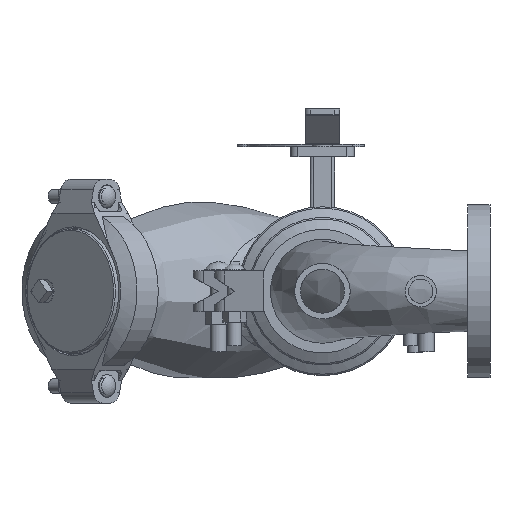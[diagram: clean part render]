
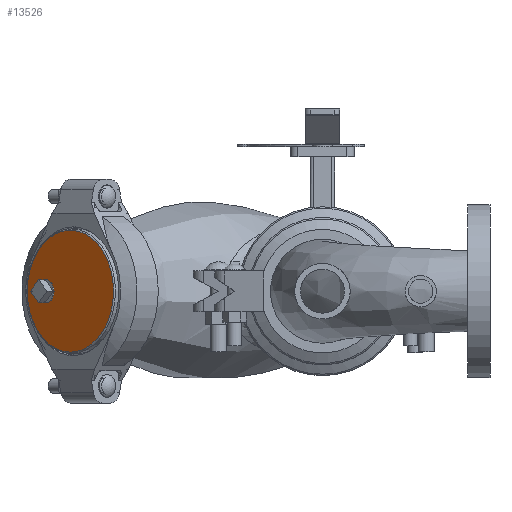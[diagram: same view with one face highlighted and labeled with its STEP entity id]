
A CAD part, front view. The second image highlights one B-rep face of the part: STEP entity #13526.
In plain terms, the highlighted planar face has unit normal (-0.707, -0.707, 0) as drawn and (1, 0, 0) by its records, which use the part's own axes.
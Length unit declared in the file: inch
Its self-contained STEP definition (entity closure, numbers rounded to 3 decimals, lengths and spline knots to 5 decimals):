
#2683=FACE_BOUND('',#3843,.T.);
#3058=FACE_OUTER_BOUND('',#3842,.T.);
#3842=EDGE_LOOP('',(#9713,#9714));
#3843=EDGE_LOOP('',(#9715));
#4641=CIRCLE('',#14855,0.5);
#4649=CIRCLE('',#14866,2.6375);
#4650=CIRCLE('',#14867,2.6375);
#5581=VERTEX_POINT('',#24956);
#5589=VERTEX_POINT('',#24977);
#5590=VERTEX_POINT('',#24978);
#7089=EDGE_CURVE('',#5581,#5581,#4641,.T.);
#7098=EDGE_CURVE('',#5589,#5590,#4649,.T.);
#7099=EDGE_CURVE('',#5590,#5589,#4650,.T.);
#9713=ORIENTED_EDGE('',*,*,#7098,.T.);
#9714=ORIENTED_EDGE('',*,*,#7099,.T.);
#9715=ORIENTED_EDGE('',*,*,#7089,.T.);
#12236=PLANE('',#14869);
#13526=ADVANCED_FACE('',(#3058,#2683),#12236,.T.);
#14855=AXIS2_PLACEMENT_3D('',#24958,#17278,#17279);
#14866=AXIS2_PLACEMENT_3D('',#24979,#17301,#17302);
#14867=AXIS2_PLACEMENT_3D('',#24980,#17303,#17304);
#14869=AXIS2_PLACEMENT_3D('',#24982,#17307,#17308);
#17278=DIRECTION('center_axis',(-1.,0.,0.));
#17279=DIRECTION('ref_axis',(0.,0.,1.));
#17301=DIRECTION('center_axis',(1.,0.,0.));
#17302=DIRECTION('ref_axis',(0.,0.,-1.));
#17303=DIRECTION('center_axis',(1.,0.,0.));
#17304=DIRECTION('ref_axis',(0.,0.,-1.));
#17307=DIRECTION('center_axis',(1.,0.,0.));
#17308=DIRECTION('ref_axis',(0.,0.,-1.));
#24956=CARTESIAN_POINT('',(1.13,1.5,-0.5));
#24958=CARTESIAN_POINT('Origin',(1.13,1.5,0.));
#24977=CARTESIAN_POINT('',(1.13,2.6375,0.));
#24978=CARTESIAN_POINT('',(1.13,0.,2.6375));
#24979=CARTESIAN_POINT('Origin',(1.13,0.,0.));
#24980=CARTESIAN_POINT('Origin',(1.13,0.,0.));
#24982=CARTESIAN_POINT('Origin',(1.13,0.,0.));
